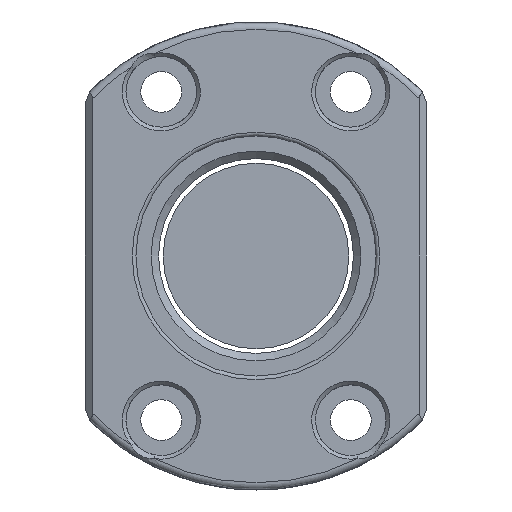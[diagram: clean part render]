
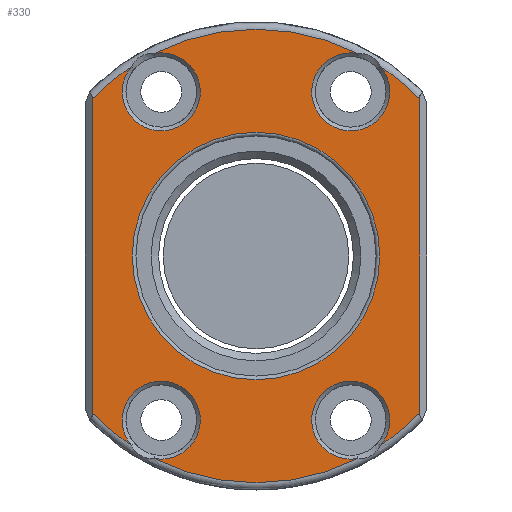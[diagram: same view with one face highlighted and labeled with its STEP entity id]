
A CAD part, front view. The second image highlights one B-rep face of the part: STEP entity #330.
In plain terms, the highlighted planar face has unit normal (0, -1, 0).
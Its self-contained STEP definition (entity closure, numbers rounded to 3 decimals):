
#77=LINE('',#2205,#117);
#78=LINE('',#2217,#118);
#117=VECTOR('',#1830,1.);
#118=VECTOR('',#1841,1.);
#228=PLANE('',#1531);
#330=ADVANCED_FACE('',(#490,#491),#228,.T.);
#490=FACE_BOUND('',#634,.T.);
#491=FACE_BOUND('',#635,.T.);
#634=EDGE_LOOP('',(#841));
#635=EDGE_LOOP('',(#842,#843,#844,#845,#846,#847,#848,#849,#850,#851,#852,
#853));
#841=ORIENTED_EDGE('',*,*,#1238,.T.);
#842=ORIENTED_EDGE('',*,*,#1239,.T.);
#843=ORIENTED_EDGE('',*,*,#1240,.T.);
#844=ORIENTED_EDGE('',*,*,#1241,.T.);
#845=ORIENTED_EDGE('',*,*,#1242,.T.);
#846=ORIENTED_EDGE('',*,*,#1243,.T.);
#847=ORIENTED_EDGE('',*,*,#1244,.T.);
#848=ORIENTED_EDGE('',*,*,#1245,.T.);
#849=ORIENTED_EDGE('',*,*,#1246,.T.);
#850=ORIENTED_EDGE('',*,*,#1247,.T.);
#851=ORIENTED_EDGE('',*,*,#1248,.T.);
#852=ORIENTED_EDGE('',*,*,#1249,.T.);
#853=ORIENTED_EDGE('',*,*,#1250,.T.);
#1103=VERTEX_POINT('',#2197);
#1104=VERTEX_POINT('',#2199);
#1105=VERTEX_POINT('',#2200);
#1106=VERTEX_POINT('',#2202);
#1107=VERTEX_POINT('',#2204);
#1108=VERTEX_POINT('',#2206);
#1109=VERTEX_POINT('',#2208);
#1110=VERTEX_POINT('',#2210);
#1111=VERTEX_POINT('',#2212);
#1112=VERTEX_POINT('',#2214);
#1113=VERTEX_POINT('',#2216);
#1114=VERTEX_POINT('',#2218);
#1115=VERTEX_POINT('',#2220);
#1238=EDGE_CURVE('',#1103,#1103,#1383,.T.);
#1239=EDGE_CURVE('',#1104,#1105,#1384,.T.);
#1240=EDGE_CURVE('',#1105,#1106,#1385,.T.);
#1241=EDGE_CURVE('',#1106,#1107,#1386,.T.);
#1242=EDGE_CURVE('',#1107,#1108,#77,.T.);
#1243=EDGE_CURVE('',#1108,#1109,#1387,.T.);
#1244=EDGE_CURVE('',#1109,#1110,#1388,.T.);
#1245=EDGE_CURVE('',#1110,#1111,#1389,.T.);
#1246=EDGE_CURVE('',#1111,#1112,#1390,.T.);
#1247=EDGE_CURVE('',#1112,#1113,#1391,.T.);
#1248=EDGE_CURVE('',#1113,#1114,#78,.T.);
#1249=EDGE_CURVE('',#1114,#1115,#1392,.T.);
#1250=EDGE_CURVE('',#1115,#1104,#1393,.T.);
#1383=CIRCLE('',#1520,16.65);
#1384=CIRCLE('',#1521,30.5);
#1385=CIRCLE('',#1522,5.25);
#1386=CIRCLE('',#1523,30.5);
#1387=CIRCLE('',#1524,30.5);
#1388=CIRCLE('',#1525,5.25);
#1389=CIRCLE('',#1526,30.5);
#1390=CIRCLE('',#1527,5.25);
#1391=CIRCLE('',#1528,30.5);
#1392=CIRCLE('',#1529,30.5);
#1393=CIRCLE('',#1530,5.25);
#1520=AXIS2_PLACEMENT_3D('',#2196,#1822,#1823);
#1521=AXIS2_PLACEMENT_3D('',#2198,#1824,#1825);
#1522=AXIS2_PLACEMENT_3D('',#2201,#1826,#1827);
#1523=AXIS2_PLACEMENT_3D('',#2203,#1828,#1829);
#1524=AXIS2_PLACEMENT_3D('',#2207,#1831,#1832);
#1525=AXIS2_PLACEMENT_3D('',#2209,#1833,#1834);
#1526=AXIS2_PLACEMENT_3D('',#2211,#1835,#1836);
#1527=AXIS2_PLACEMENT_3D('',#2213,#1837,#1838);
#1528=AXIS2_PLACEMENT_3D('',#2215,#1839,#1840);
#1529=AXIS2_PLACEMENT_3D('',#2219,#1842,#1843);
#1530=AXIS2_PLACEMENT_3D('',#2221,#1844,#1845);
#1531=AXIS2_PLACEMENT_3D('',#2222,#1846,#1847);
#1822=DIRECTION('',(0.,1.,0.));
#1823=DIRECTION('',(0.,0.,-1.));
#1824=DIRECTION('',(0.,-1.,0.));
#1825=DIRECTION('',(0.,0.,-1.));
#1826=DIRECTION('',(0.,1.,0.));
#1827=DIRECTION('',(0.,0.,-1.));
#1828=DIRECTION('',(0.,-1.,0.));
#1829=DIRECTION('',(0.,0.,-1.));
#1830=DIRECTION('',(0.,0.,-1.));
#1831=DIRECTION('',(0.,-1.,0.));
#1832=DIRECTION('',(0.,0.,-1.));
#1833=DIRECTION('',(0.,1.,0.));
#1834=DIRECTION('',(0.,0.,-1.));
#1835=DIRECTION('',(0.,-1.,0.));
#1836=DIRECTION('',(0.,0.,-1.));
#1837=DIRECTION('',(0.,1.,0.));
#1838=DIRECTION('',(0.,0.,-1.));
#1839=DIRECTION('',(0.,-1.,0.));
#1840=DIRECTION('',(0.,0.,-1.));
#1841=DIRECTION('',(0.,0.,1.));
#1842=DIRECTION('',(0.,-1.,0.));
#1843=DIRECTION('',(0.,0.,-1.));
#1844=DIRECTION('',(0.,1.,0.));
#1845=DIRECTION('',(0.,0.,-1.));
#1846=DIRECTION('',(0.,-1.,0.));
#1847=DIRECTION('',(0.,0.,-1.));
#2196=CARTESIAN_POINT('',(0.,0.,0.));
#2197=CARTESIAN_POINT('',(0.,0.,-16.65));
#2198=CARTESIAN_POINT('',(0.,0.,0.));
#2199=CARTESIAN_POINT('',(13.709,0.,27.245));
#2200=CARTESIAN_POINT('',(-13.709,0.,27.245));
#2201=CARTESIAN_POINT('',(-12.75,0.,22.084));
#2202=CARTESIAN_POINT('',(-16.74,0.,25.495));
#2203=CARTESIAN_POINT('',(0.,0.,0.));
#2204=CARTESIAN_POINT('',(-22.,0.,21.125));
#2205=CARTESIAN_POINT('',(-22.,0.,-20.031));
#2206=CARTESIAN_POINT('',(-22.,0.,-21.125));
#2207=CARTESIAN_POINT('',(0.,0.,0.));
#2208=CARTESIAN_POINT('',(-16.74,0.,-25.495));
#2209=CARTESIAN_POINT('',(-12.75,0.,-22.084));
#2210=CARTESIAN_POINT('',(-13.709,0.,-27.245));
#2211=CARTESIAN_POINT('',(0.,0.,0.));
#2212=CARTESIAN_POINT('',(13.709,0.,-27.245));
#2213=CARTESIAN_POINT('',(12.75,0.,-22.084));
#2214=CARTESIAN_POINT('',(16.74,0.,-25.495));
#2215=CARTESIAN_POINT('',(0.,0.,0.));
#2216=CARTESIAN_POINT('',(22.,0.,-21.125));
#2217=CARTESIAN_POINT('',(22.,0.,0.));
#2218=CARTESIAN_POINT('',(22.,0.,21.125));
#2219=CARTESIAN_POINT('',(0.,0.,0.));
#2220=CARTESIAN_POINT('',(16.74,0.,25.495));
#2221=CARTESIAN_POINT('',(12.75,0.,22.084));
#2222=CARTESIAN_POINT('',(0.,0.,0.));
